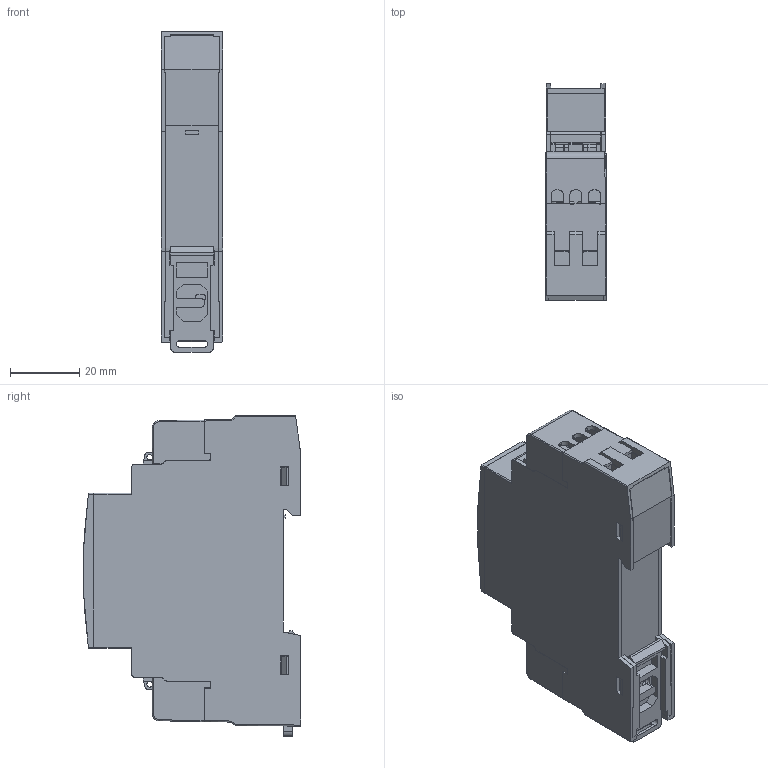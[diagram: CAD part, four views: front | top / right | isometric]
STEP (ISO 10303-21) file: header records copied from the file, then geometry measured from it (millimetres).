
FILE_DESCRIPTION((''),'2;1');
FILE_NAME('EM111_ASM','2016-03-17T',('Administrator'),(''),'PRO/ENGINEER BY PARAMETRIC TECHNOLOGY CORPORATION, 2011190','PRO/ENGINEER BY PARAMETRIC TECHNOLOGY CORPORATION, 2011190','');
FILE_SCHEMA(('AUTOMOTIVE_DESIGN { 1 0 10303 214 1 1 1 1 }'));
Length unit declared in the file: millimetre
Products named in the file (10): MG; DK; CG; TMSC; GG; LS; 1; SZ; JXLD-3P; EM111_ASM
Assembly tree (16 placements, depth 2):
  EM111_ASM
    MG
    DK
    CG  x2
    TMSC
    GG
    LS  x4
    1  x4
    SZ
    JXLD-3P
Bounding box: 17.8 x 63 x 93 mm (x, y, z)
Volume: 24906.1 mm3; surface area: 44359.9 mm2
Topology: 16 solids, 16 shells, 1876 faces, 5424 edges, 3573 vertices
Faces by surface type: plane 1384, cylinder 424, torus 28, cone 18, bspline 14, extrusion 8
Entity records: 58047 total; most frequent: CARTESIAN_POINT 12439, ORIENTED_EDGE 7752, DIRECTION 6820, EDGE_CURVE 3876, VECTOR 3262, LINE 3254, PRESENTATION_STYLE_ASSIGNMENT 2976, STYLED_ITEM 2923
